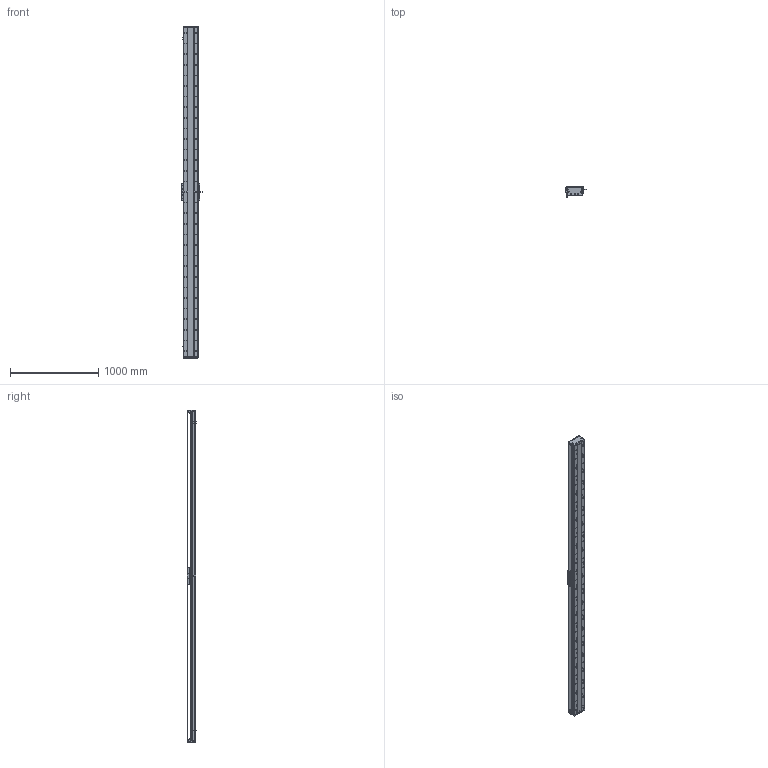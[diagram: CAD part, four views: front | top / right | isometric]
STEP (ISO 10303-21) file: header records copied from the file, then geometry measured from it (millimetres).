
FILE_DESCRIPTION (( 'STEP AP203' ), '1' );
FILE_NAME ('DA-C165-C2-T3480-C010-0.2 直线电机.STEP', '2023-05-11T08:06:03', ( '微软用户' ), ( '微软中国' ), 'SwSTEP 2.0', 'SolidWorks 2019', '' );
FILE_SCHEMA (( 'CONFIG_CONTROL_DESIGN' ));
Length unit declared in the file: millimetre
Products named in the file (18): 复件 DA165-GDYK-00 钢带压块^复件 CU165钢带组件_DA-C165-C2-T-C010-0.2-N 直线电机; IU-CU165-L 菁釱絳寢; 复件 六角薄螺母 M3^DA-C165-C2-T-C010-0.2-N 直线电机_GB_FASTENER_NUT_STNAB M3-C; DA-C165-C2-T3480-C010-0.2 眻盄萇儂; 复件 DA165-GDLK-00 钢带拉块^复件 CU165钢带组件_DA-C165-C2-T-C010-0.2-N 直线电机; 复件 XD-U-02L 磁栅尺^DA-C165-C2-T-C010-0.2-N 直线电机_T; 复件 CU165钢带组件^DA-C165-C2-T-C010-0.2-N 直线电机; 复件 DA165-GD-1860-002-00 钢带盖板^复件 CU165钢带组件_DA-C165-C2-T-C010-0.2-N 直线电机; 珨极趙賑雄怢啣wf-C2; 复件 CKM02-W075-C1C2-TP-3.0 一体电机-C2^DA-C165-C2-T-C010-0.2-N 直线电机; 葩璃 CKM01-W075-TRL^DA-C165-C2-T-C010-0.2-N 眻盄萇儂; 葩璃 PM-T45^DA-C165-C2-T-C010-0.2-N 眻盄萇儂; 葩璃 DA95-GT-T-00^IU-CU165-L 菁釱絳寢_T; 复件 DA165-GYP-00 光电感应片^DA-C165-C2-T-C010-0.2-N 直线电机; 复件 DMA-010-0.2 读数头^DA-C165-C2-T-C010-0.2-N 直线电机; IU-CU165-L-00 菁釱_L3720; 复件 DA95-HXJ-00 缓冲橡胶^DA-C165-C2-T-C010-0.2-N 直线电机; 复件 DA165-GD-DG-H-00 端盖^复件 CU165钢带组件_DA-C165-C2-T-C010-0.2-N 直线电机
Assembly tree (33 placements, depth 3):
  DA-C165-C2-T3480-C010-0.2 眻盄萇儂
    IU-CU165-L 菁釱絳寢
      IU-CU165-L-00 菁釱_L3720
      葩璃 DA95-GT-T-00^IU-CU165-L 菁釱絳寢_T  x4
    复件 XD-U-02L 磁栅尺^DA-C165-C2-T-C010-0.2-N 直线电机_T
    葩璃 PM-T45^DA-C165-C2-T-C010-0.2-N 眻盄萇儂  x3
    葩璃 CKM01-W075-TRL^DA-C165-C2-T-C010-0.2-N 眻盄萇儂
    复件 CU165钢带组件^DA-C165-C2-T-C010-0.2-N 直线电机
      复件 DA165-GD-DG-H-00 端盖^复件 CU165钢带组件_DA-C165-C2-T-C010-0.2-N 直线电机  x2
      复件 DA165-GDYK-00 钢带压块^复件 CU165钢带组件_DA-C165-C2-T-C010-0.2-N 直线电机  x2
      复件 DA165-GD-1860-002-00 钢带盖板^复件 CU165钢带组件_DA-C165-C2-T-C010-0.2-N 直线电机
      复件 DA165-GDLK-00 钢带拉块^复件 CU165钢带组件_DA-C165-C2-T-C010-0.2-N 直线电机  x2
    复件 DA95-HXJ-00 缓冲橡胶^DA-C165-C2-T-C010-0.2-N 直线电机  x4
    复件 DA165-GYP-00 光电感应片^DA-C165-C2-T-C010-0.2-N 直线电机
    复件 DMA-010-0.2 读数头^DA-C165-C2-T-C010-0.2-N 直线电机
    复件 CKM02-W075-C1C2-TP-3.0 一体电机-C2^DA-C165-C2-T-C010-0.2-N 直线电机
    复件 六角薄螺母 M3^DA-C165-C2-T-C010-0.2-N 直线电机_GB_FASTENER_NUT_STNAB M3-C  x6
    珨极趙賑雄怢啣wf-C2
Bounding box: 233 x 111.45 x 3760 mm (x, y, z)
Volume: 20019705.9 mm3; surface area: 6143204.3 mm2
Topology: 70 solids, 70 shells, 4447 faces, 13527 edges, 8715 vertices
Faces by surface type: cylinder 2829, plane 1138, cone 430, torus 46, sphere 4
Entity records: 159513 total; most frequent: CARTESIAN_POINT 45733, ORIENTED_EDGE 24226, DIRECTION 22665, EDGE_CURVE 12113, AXIS2_PLACEMENT_3D 8723, VERTEX_POINT 7951, EDGE_LOOP 5448, LINE 5219
